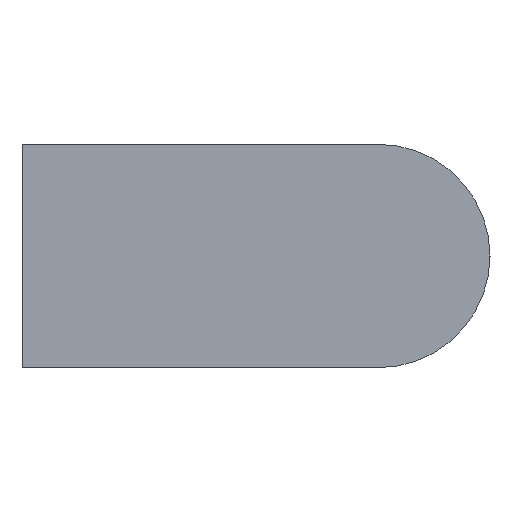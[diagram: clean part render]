
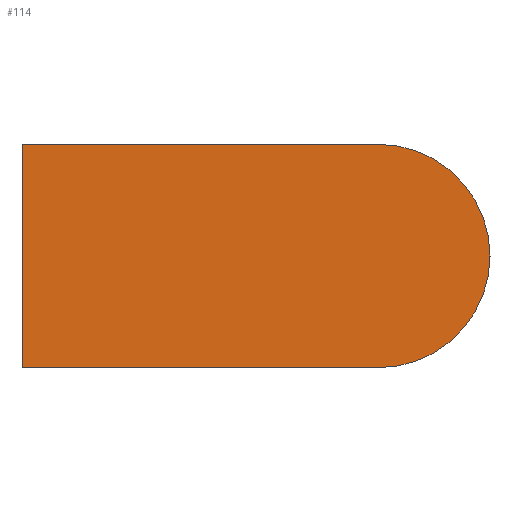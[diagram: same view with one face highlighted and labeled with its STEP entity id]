
A CAD part, left-side view. The second image highlights one B-rep face of the part: STEP entity #114.
In plain terms, the highlighted planar face has unit normal (-1, 0, 0).
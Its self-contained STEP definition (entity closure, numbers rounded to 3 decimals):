
#114 = ADVANCED_FACE( '', ( #250 ), #251, .F. );
#250 = FACE_OUTER_BOUND( '', #418, .T. );
#251 = PLANE( '', #419 );
#418 = EDGE_LOOP( '', ( #615, #616, #617, #618 ) );
#419 = AXIS2_PLACEMENT_3D( '', #619, #620, #621 );
#615 = ORIENTED_EDGE( '', *, *, #844, .F. );
#616 = ORIENTED_EDGE( '', *, *, #845, .F. );
#617 = ORIENTED_EDGE( '', *, *, #846, .F. );
#618 = ORIENTED_EDGE( '', *, *, #839, .F. );
#619 = CARTESIAN_POINT( '', ( -5., -33.5, 0. ) );
#620 = DIRECTION( '', ( 1., 0., 0. ) );
#621 = DIRECTION( '', ( 0., 0., -1. ) );
#839 = EDGE_CURVE( '', #959, #960, #961, .T. );
#844 = EDGE_CURVE( '', #968, #959, #969, .T. );
#845 = EDGE_CURVE( '', #970, #968, #971, .T. );
#846 = EDGE_CURVE( '', #960, #970, #972, .T. );
#959 = VERTEX_POINT( '', #1110 );
#960 = VERTEX_POINT( '', #1111 );
#961 = LINE( '', #1112, #1113 );
#968 = VERTEX_POINT( '', #1123 );
#969 = LINE( '', #1124, #1125 );
#970 = VERTEX_POINT( '', #1126 );
#971 = LINE( '', #1127, #1128 );
#972 = CIRCLE( '', #1129, 10.5 );
#1110 = CARTESIAN_POINT( '', ( -5., 0., 10.5 ) );
#1111 = CARTESIAN_POINT( '', ( -5., -33.5, 10.5 ) );
#1112 = CARTESIAN_POINT( '', ( -5., 0., 10.5 ) );
#1113 = VECTOR( '', #1261, 1000. );
#1123 = CARTESIAN_POINT( '', ( -5., 0., -10.5 ) );
#1124 = CARTESIAN_POINT( '', ( -5., 0., -10.5 ) );
#1125 = VECTOR( '', #1265, 1000. );
#1126 = CARTESIAN_POINT( '', ( -5., -33.5, -10.5 ) );
#1127 = CARTESIAN_POINT( '', ( -5., -33.5, -10.5 ) );
#1128 = VECTOR( '', #1266, 1000. );
#1129 = AXIS2_PLACEMENT_3D( '', #1267, #1268, #1269 );
#1261 = DIRECTION( '', ( 0., -1., 0. ) );
#1265 = DIRECTION( '', ( 0., 0., 1. ) );
#1266 = DIRECTION( '', ( 0., 1., 0. ) );
#1267 = CARTESIAN_POINT( '', ( -5., -33.5, 0. ) );
#1268 = DIRECTION( '', ( 1., 0., 0. ) );
#1269 = DIRECTION( '', ( 0., 0., -1. ) );
